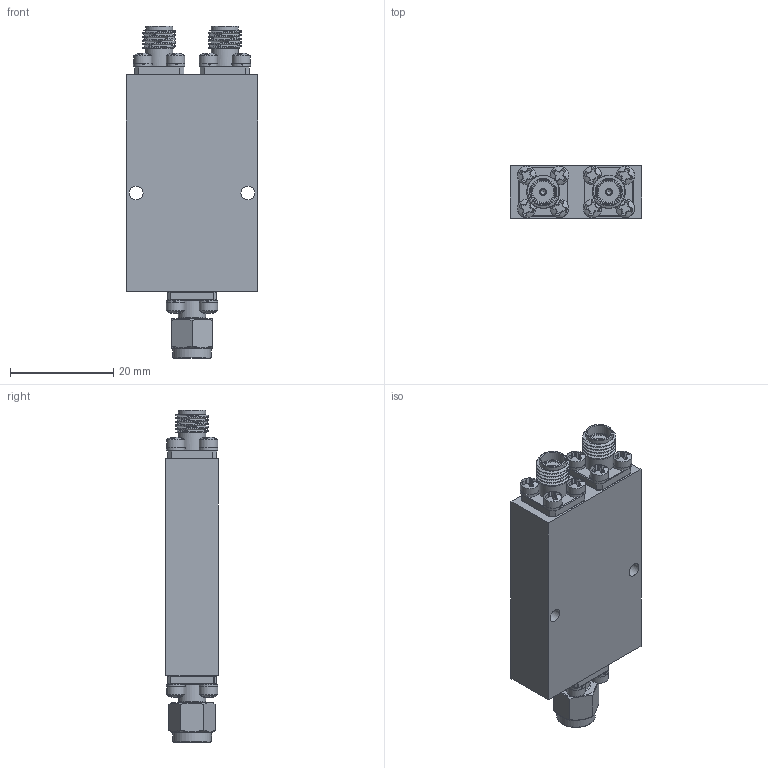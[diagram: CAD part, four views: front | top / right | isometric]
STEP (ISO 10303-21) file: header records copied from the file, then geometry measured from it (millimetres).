
FILE_DESCRIPTION (( 'STEP AP214' ), '1' );
FILE_NAME ('APD-2-2G18G-GC-SMF.STEP', '2026-08-13T18:44:33', ( '' ), ( '' ), 'SwSTEP 2.0', 'SolidWorks 2025', '' );
FILE_SCHEMA (( 'AUTOMOTIVE_DESIGN' ));
Length unit declared in the file: inch
Products named in the file (1): APD-2-2G18G-GC-SMF
Bounding box: 25.4 x 10.21 x 64.21 mm (x, y, z)
Volume: 12215.1 mm3; surface area: 8722.8 mm2
Topology: 41 solids, 41 shells, 913 faces, 2896 edges, 2203 vertices
Faces by surface type: plane 507, cylinder 180, torus 83, cone 78, sphere 40, bspline 25
Full cylindrical faces by diameter (mm): 0.305 x3, 0.381 x2, 0.508 x1, 0.635 x2, 0.762 x1, 0.902 x1, 1.016 x2, 1.27 x2, 1.702 x8, 1.727 x4, 1.943 x1, 2.184 x12, 2.642 x2, 3.302 x2, 3.556 x12, 4.191 x4, 4.572 x1, 4.592 x1, 4.597 x2, 5.283 x10, 6.35 x2, 6.604 x1, 7.493 x1
Entity records: 49511 total; most frequent: CARTESIAN_POINT 13245, ORIENTED_EDGE 5322, DIRECTION 4686, EDGE_CURVE 2661, VERTEX_POINT 2163, AXIS2_PLACEMENT_3D 1689, LINE 1308, VECTOR 1308
